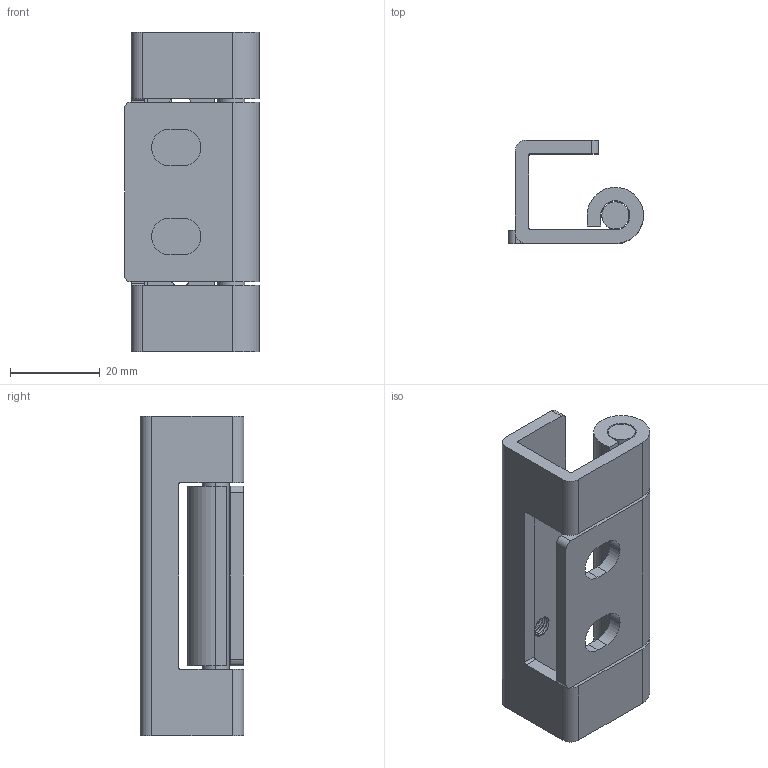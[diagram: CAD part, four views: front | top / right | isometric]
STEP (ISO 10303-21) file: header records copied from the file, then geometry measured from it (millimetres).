
FILE_DESCRIPTION (( 'STEP AP214' ), '1' );
FILE_NAME ('錨璃1.STEP', '2023-06-28T02:53:38', ( 'Windows 蚚誧' ), ( '' ), 'SwSTEP 2.0', 'SolidWorks 2019', '' );
FILE_SCHEMA (( 'AUTOMOTIVE_DESIGN' ));
Length unit declared in the file: millimetre
Products named in the file (1): 錨璃1
Bounding box: 30 x 23 x 71 mm (x, y, z)
Volume: 17432.4 mm3; surface area: 13747.7 mm2
Topology: 3 solids, 3 shells, 94 faces, 260 edges, 172 vertices
Faces by surface type: cylinder 52, plane 36, bspline 6
Entity records: 5732 total; most frequent: CARTESIAN_POINT 3139, ORIENTED_EDGE 520, DIRECTION 456, EDGE_CURVE 260, VERTEX_POINT 172, AXIS2_PLACEMENT_3D 161, LINE 134, VECTOR 134
